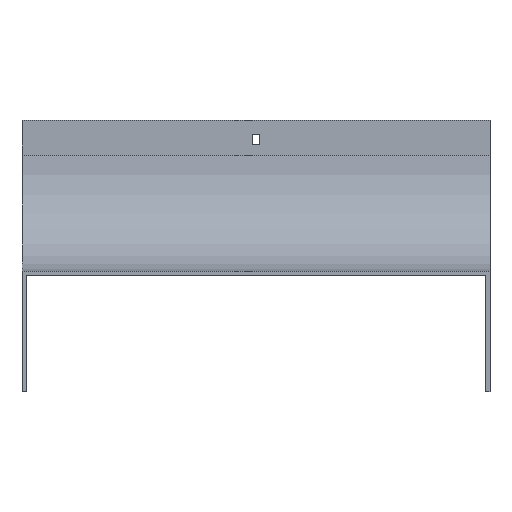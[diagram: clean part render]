
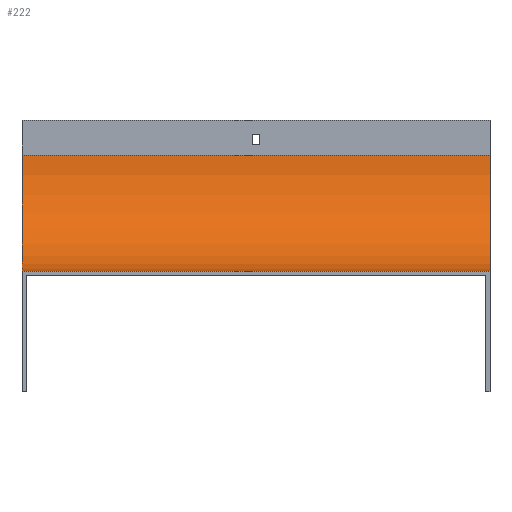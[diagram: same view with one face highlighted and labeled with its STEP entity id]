
A CAD part, front view. The second image highlights one B-rep face of the part: STEP entity #222.
In plain terms, the highlighted cylindrical face has radius 100 mm (diameter 200 mm), a partial arc.
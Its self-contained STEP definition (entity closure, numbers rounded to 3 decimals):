
#53 = AXIS2_PLACEMENT_3D ( 'NONE', #442, #1158, #114 ) ;
#64 = CARTESIAN_POINT ( 'NONE',  ( 202., -100., -30. ) ) ;
#90 = CARTESIAN_POINT ( 'NONE',  ( -202., 0., -30. ) ) ;
#114 = DIRECTION ( 'NONE',  ( 0., 0., 1. ) ) ;
#128 = EDGE_CURVE ( 'NONE', #245, #1587, #633, .T. ) ;
#222 = ADVANCED_FACE ( 'NONE', ( #1108 ), #1689, .F. ) ;
#232 = EDGE_CURVE ( 'NONE', #1485, #495, #1259, .T. ) ;
#245 = VERTEX_POINT ( 'NONE', #1566 ) ;
#294 = CIRCLE ( 'NONE', #1033, 100. ) ;
#298 = CARTESIAN_POINT ( 'NONE',  ( 202., -100., -130. ) ) ;
#321 = EDGE_CURVE ( 'NONE', #1485, #245, #294, .T. ) ;
#349 = DIRECTION ( 'NONE',  ( 0., 0., 1. ) ) ;
#442 = CARTESIAN_POINT ( 'NONE',  ( -202., -100., -30. ) ) ;
#447 = ORIENTED_EDGE ( 'NONE', *, *, #128, .F. ) ;
#495 = VERTEX_POINT ( 'NONE', #90 ) ;
#504 = DIRECTION ( 'NONE',  ( -1., 0., 0. ) ) ;
#525 = CIRCLE ( 'NONE', #53, 100. ) ;
#559 = CARTESIAN_POINT ( 'NONE',  ( -202., -100., -130. ) ) ;
#633 = LINE ( 'NONE', #298, #1097 ) ;
#655 = EDGE_LOOP ( 'NONE', ( #1497, #447, #1129, #1180 ) ) ;
#661 = DIRECTION ( 'NONE',  ( 0., 0., 1. ) ) ;
#964 = CARTESIAN_POINT ( 'NONE',  ( 202., 0., -30. ) ) ;
#1033 = AXIS2_PLACEMENT_3D ( 'NONE', #1287, #1387, #661 ) ;
#1097 = VECTOR ( 'NONE', #1658, 1000. ) ;
#1108 = FACE_OUTER_BOUND ( 'NONE', #655, .T. ) ;
#1129 = ORIENTED_EDGE ( 'NONE', *, *, #321, .F. ) ;
#1158 = DIRECTION ( 'NONE',  ( -1., 0., 0. ) ) ;
#1180 = ORIENTED_EDGE ( 'NONE', *, *, #232, .T. ) ;
#1248 = AXIS2_PLACEMENT_3D ( 'NONE', #64, #504, #349 ) ;
#1259 = LINE ( 'NONE', #964, #1640 ) ;
#1287 = CARTESIAN_POINT ( 'NONE',  ( 202., -100., -30. ) ) ;
#1351 = EDGE_CURVE ( 'NONE', #495, #1587, #525, .T. ) ;
#1387 = DIRECTION ( 'NONE',  ( -1., 0., 0. ) ) ;
#1485 = VERTEX_POINT ( 'NONE', #1813 ) ;
#1497 = ORIENTED_EDGE ( 'NONE', *, *, #1351, .T. ) ;
#1548 = DIRECTION ( 'NONE',  ( -1., 0., 0. ) ) ;
#1566 = CARTESIAN_POINT ( 'NONE',  ( 202., -100., -130. ) ) ;
#1587 = VERTEX_POINT ( 'NONE', #559 ) ;
#1640 = VECTOR ( 'NONE', #1548, 1000. ) ;
#1658 = DIRECTION ( 'NONE',  ( -1., 0., 0. ) ) ;
#1689 = CYLINDRICAL_SURFACE ( 'NONE', #1248, 100. ) ;
#1813 = CARTESIAN_POINT ( 'NONE',  ( 202., 0., -30. ) ) ;
